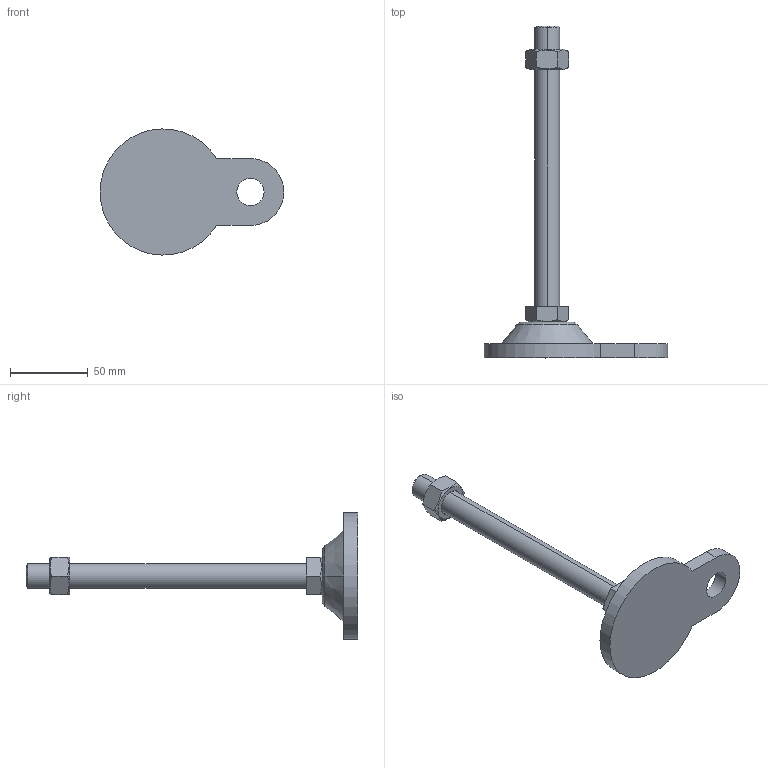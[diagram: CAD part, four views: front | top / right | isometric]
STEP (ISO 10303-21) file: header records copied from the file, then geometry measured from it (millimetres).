
FILE_DESCRIPTION (( 'STEP AP214' ), '1' );
FILE_NAME ('ARB81-M16-180.step', '2021-01-07T07:17:25', ( '' ), ( '' ), 'SwSTEP 2.0', 'SolidWorks 2019', '' );
FILE_SCHEMA (( 'AUTOMOTIVE_DESIGN' ));
Length unit declared in the file: millimetre
Products named in the file (1): ARB81-M16-180
Bounding box: 118 x 213 x 80.98 mm (x, y, z)
Volume: 127546.1 mm3; surface area: 30119.5 mm2
Topology: 3 solids, 3 shells, 46 faces, 100 edges, 62 vertices
Faces by surface type: plane 22, cone 14, cylinder 8, torus 2
Entity records: 1470 total; most frequent: CARTESIAN_POINT 407, DIRECTION 212, ORIENTED_EDGE 200, EDGE_CURVE 100, AXIS2_PLACEMENT_3D 83, VERTEX_POINT 62, EDGE_LOOP 52, FACE_OUTER_BOUND 46
